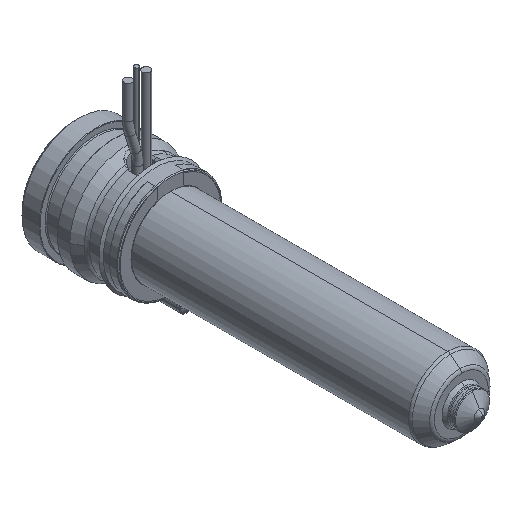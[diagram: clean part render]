
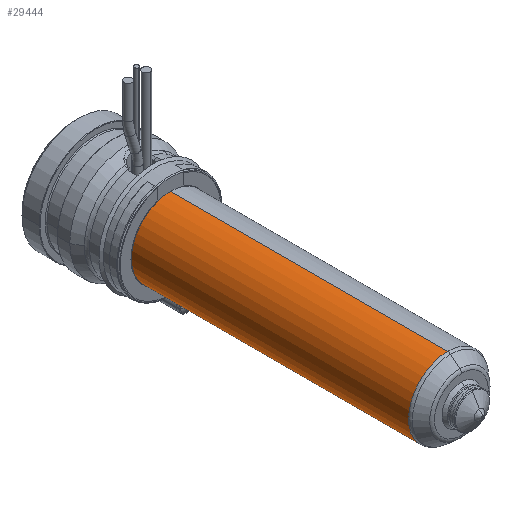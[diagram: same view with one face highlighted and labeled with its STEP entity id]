
A CAD part, isometric view. The second image highlights one B-rep face of the part: STEP entity #29444.
In plain terms, the highlighted cylindrical face has radius 9 mm (diameter 18 mm), a partial arc.
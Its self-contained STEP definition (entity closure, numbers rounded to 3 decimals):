
#28842=CARTESIAN_POINT('',(0.,-85.836,0.));
#28843=DIRECTION('',(0.,-1.,0.));
#28844=DIRECTION('',(0.,0.,1.));
#28845=AXIS2_PLACEMENT_3D('',#28842,#28843,#28844);
#28847=CARTESIAN_POINT('',(0.,-22.,0.));
#28848=DIRECTION('',(0.,1.,0.));
#28849=DIRECTION('',(0.,0.,-1.));
#28850=AXIS2_PLACEMENT_3D('',#28847,#28848,#28849);
#28852=DIRECTION('',(0.,1.,0.));
#28853=VECTOR('',#28852,63.836);
#28854=CARTESIAN_POINT('',(0.,-85.836,9.));
#28855=LINE('',#28854,#28853);
#28861=DIRECTION('',(0.,1.,0.));
#28862=VECTOR('',#28861,63.836);
#28863=CARTESIAN_POINT('',(0.,-85.836,-9.));
#28864=LINE('',#28863,#28862);
#28987=CARTESIAN_POINT('',(0.,-85.836,9.));
#28988=CARTESIAN_POINT('',(0.,-22.,9.));
#28989=VERTEX_POINT('',#28987);
#28990=VERTEX_POINT('',#28988);
#28991=CARTESIAN_POINT('',(0.,-85.836,-9.));
#28992=CARTESIAN_POINT('',(0.,-22.,-9.));
#28993=VERTEX_POINT('',#28991);
#28994=VERTEX_POINT('',#28992);
#29430=CARTESIAN_POINT('',(0.,-14.2,0.));
#29431=DIRECTION('',(0.,-1.,0.));
#29432=DIRECTION('',(0.,0.,1.));
#29433=AXIS2_PLACEMENT_3D('',#29430,#29431,#29432);
#29434=CYLINDRICAL_SURFACE('',#29433,9.);
#29436=ORIENTED_EDGE('',*,*,#29435,.F.);
#29437=ORIENTED_EDGE('',*,*,#29418,.T.);
#29439=ORIENTED_EDGE('',*,*,#29438,.T.);
#29441=ORIENTED_EDGE('',*,*,#29440,.T.);
#29442=EDGE_LOOP('',(#29436,#29437,#29439,#29441));
#29443=FACE_OUTER_BOUND('',#29442,.F.);
#29444=ADVANCED_FACE('',(#29443),#29434,.T.);
#28846=CIRCLE('',#28845,9.);
#28851=CIRCLE('',#28850,9.);
#29418=EDGE_CURVE('',#28989,#28993,#28846,.T.);
#29435=EDGE_CURVE('',#28989,#28990,#28855,.T.);
#29438=EDGE_CURVE('',#28993,#28994,#28864,.T.);
#29440=EDGE_CURVE('',#28994,#28990,#28851,.T.);
